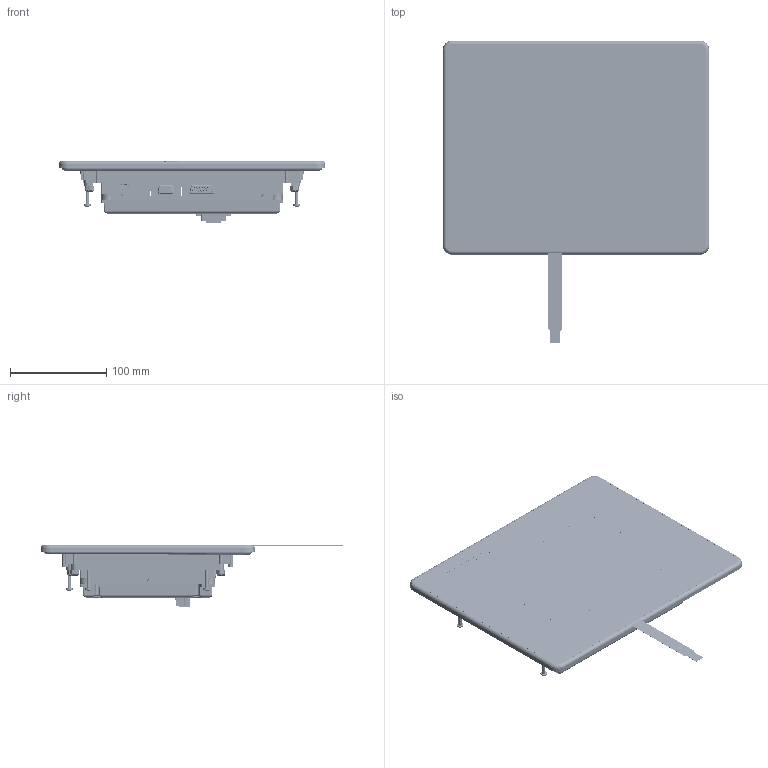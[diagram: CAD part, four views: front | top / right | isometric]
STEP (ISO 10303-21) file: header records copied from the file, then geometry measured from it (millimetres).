
FILE_DESCRIPTION (( 'STEP AP214' ), '1' );
FILE_NAME ('EZ12_8INCH.STEP', '2018-06-04T22:27:04', ( '' ), ( '' ), 'SwSTEP 2.0', 'SolidWorks 2018', '' );
FILE_SCHEMA (( 'AUTOMOTIVE_DESIGN' ));
Length unit declared in the file: inch
Products named in the file (40): dfk-mstb_2.5-3-gf-5.08; 36165; SHELL; ECM-XXEZ3-003; USB1030; MSC-08-32-STUD A_92620A408; MGK-8EZ12-002; 34210; MBK-EZ12X-DIN2; EEC-04PIN-USB; ECM-RJ-45-FLED; FPD-PGI8P-008; BAT-PGIXP-001; UP Bezel_-ｼ+-; MBP-6EZ12-BACK; EZ12_8INCH; TL_1; MSC-M3.50-S10PH; MEM2051; ZLE-C155G-EKT; BLU_-ｼ+-; TFM-PGIXP-001; 49035_CR-PHMS 0.138-32x0.375x0.375-N; _S__4; MLB-06EZ3-002; TSN-PGI8P-005; 45681M; MFP-8EZ12-BEZ D; H; PCA-EZPE3-010T; PCA-EZPE-030; TS_1; MSC-M3.00-S12PP; MCO-XXEZ9-001; MLB-8EZ12-001; 28428 Half AA; EPM-50PIN-002; TS; 50402; 48414
Assembly tree (64 placements, depth 4):
  EZ12_8INCH
    MFP-8EZ12-BEZ D
    MGK-8EZ12-002
    MBP-6EZ12-BACK
    FPD-PGI8P-008
      BLU_-ｼ+-
      UP Bezel_-ｼ+-
    PCA-EZPE3-010T
      PCA-EZPE-030
      USB1030
        H
        SHELL
        TS
        TS_1
        _S__4
      MEM2051
      ECM-RJ-45-FLED
      EEC-04PIN-USB
      34210
      36165
      45681M
      TFM-PGIXP-001
      EPM-50PIN-002
      ZLE-C155G-EKT
    TSN-PGI8P-005
    MLB-8EZ12-001
    MBK-EZ12X-DIN2  x5
    MSC-08-32-STUD A_92620A408  x5
    50402  x5
    49035_CR-PHMS 0.138-32x0.375x0.375-N  x5
    MSC-M3.50-S10PH  x4
    BAT-PGIXP-001  x2
    28428 Half AA
    MCO-XXEZ9-001
    ECM-XXEZ3-003
    dfk-mstb_2.5-3-gf-5.08
    MSC-M3.00-S12PP  x2
    48414  x6
    MLB-06EZ3-002
  TL_1
Bounding box: 276.75 x 314.3 x 64.5 mm (x, y, z)
Volume: 677135.1 mm3; surface area: 635791.4 mm2
Topology: 73 solids, 97 shells, 15208 faces, 40202 edges, 25590 vertices
Faces by surface type: plane 9705, cylinder 3661, bspline 1026, cone 500, torus 215, sphere 101
Entity records: 540873 total; most frequent: CARTESIAN_POINT 182915, ORIENTED_EDGE 73490, DIRECTION 59363, EDGE_CURVE 36800, VECTOR 24709, LINE 24709, VERTEX_POINT 23427, AXIS2_PLACEMENT_3D 17327
